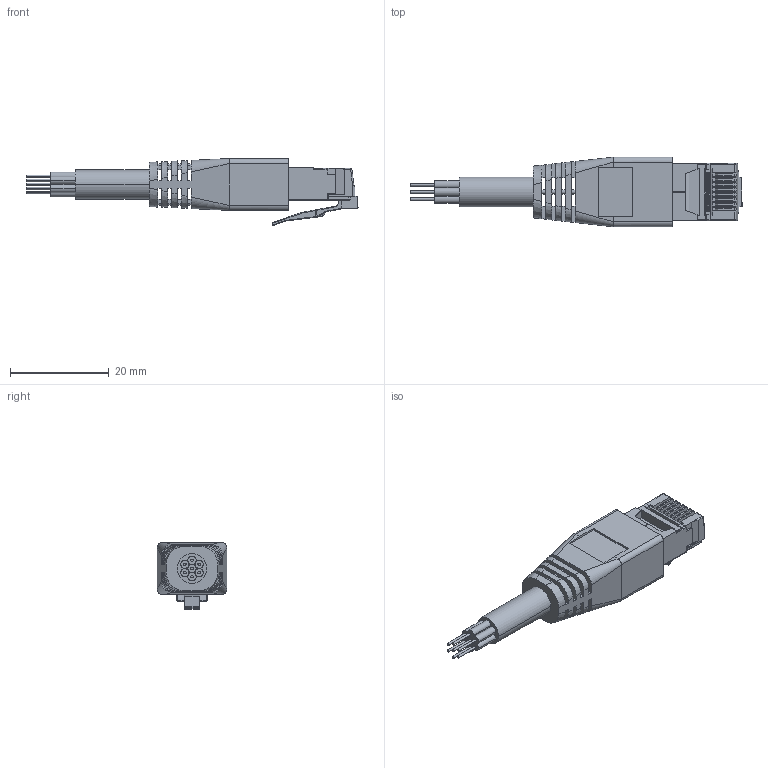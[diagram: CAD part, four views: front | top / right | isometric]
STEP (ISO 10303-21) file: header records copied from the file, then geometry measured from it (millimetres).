
FILE_DESCRIPTION (( 'STEP AP214' ), '1' );
FILE_NAME ('MI-1.STEP', '2023-06-22T06:32:37', ( '' ), ( '' ), 'SwSTEP 2.0', 'SolidWorks 2021', '' );
FILE_SCHEMA (( 'AUTOMOTIVE_DESIGN' ));
Length unit declared in the file: millimetre
Products named in the file (6): MV-1 OverMold; SS-39200-011 Body; SS-39200-011 Shield; SS-39200-011 Contacts; SS-39200-011; MI-1
Assembly tree (5 placements, depth 3):
  MI-1
    SS-39200-011
      SS-39200-011 Body
      SS-39200-011 Contacts
      SS-39200-011 Shield
    MV-1 OverMold
Bounding box: 67.3 x 14.1 x 13.54 mm (x, y, z)
Volume: 3445.8 mm3; surface area: 5713.8 mm2
Topology: 26 solids, 26 shells, 811 faces, 2311 edges, 1519 vertices
Faces by surface type: plane 590, cylinder 190, bspline 29, torus 2
Entity records: 28308 total; most frequent: CARTESIAN_POINT 7197, ORIENTED_EDGE 4622, DIRECTION 3796, EDGE_CURVE 2311, LINE 1762, VECTOR 1762, VERTEX_POINT 1519, AXIS2_PLACEMENT_3D 1017
